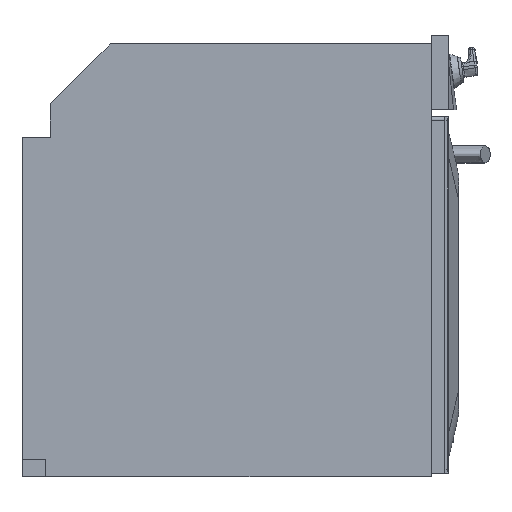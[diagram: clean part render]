
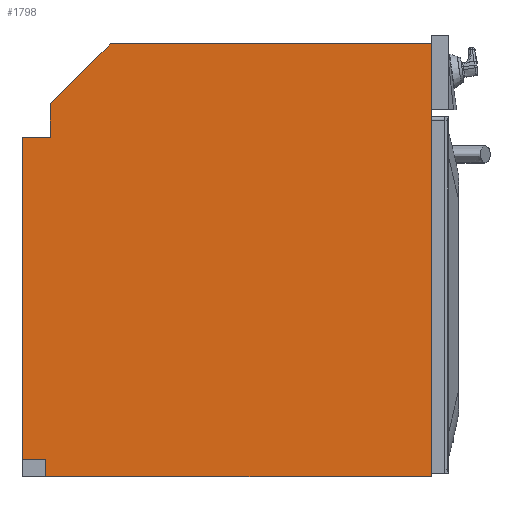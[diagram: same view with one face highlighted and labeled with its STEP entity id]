
A CAD part, front view. The second image highlights one B-rep face of the part: STEP entity #1798.
In plain terms, the highlighted planar face has unit normal (0, -1, 0).
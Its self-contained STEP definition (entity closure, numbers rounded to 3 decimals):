
#1798=ADVANCED_FACE('',(#2569),#2132,.F.);
#2132=PLANE('',#10076);
#2569=FACE_OUTER_BOUND('',#3154,.T.);
#3154=EDGE_LOOP('',(#5073,#5074,#5075,#5076,#5077,#5078,#5079,#5080,#5081));
#5073=ORIENTED_EDGE('',*,*,#7647,.F.);
#5074=ORIENTED_EDGE('',*,*,#7641,.F.);
#5075=ORIENTED_EDGE('',*,*,#7670,.F.);
#5076=ORIENTED_EDGE('',*,*,#7665,.F.);
#5077=ORIENTED_EDGE('',*,*,#7662,.F.);
#5078=ORIENTED_EDGE('',*,*,#7659,.F.);
#5079=ORIENTED_EDGE('',*,*,#7656,.F.);
#5080=ORIENTED_EDGE('',*,*,#7653,.F.);
#5081=ORIENTED_EDGE('',*,*,#7650,.F.);
#6503=VERTEX_POINT('',#17950);
#6506=VERTEX_POINT('',#17955);
#6512=VERTEX_POINT('',#17969);
#6514=VERTEX_POINT('',#17975);
#6516=VERTEX_POINT('',#17981);
#6518=VERTEX_POINT('',#17987);
#6520=VERTEX_POINT('',#17993);
#6522=VERTEX_POINT('',#17999);
#6523=VERTEX_POINT('',#18004);
#7641=EDGE_CURVE('',#6506,#6503,#8496,.T.);
#7647=EDGE_CURVE('',#6503,#6512,#8502,.T.);
#7650=EDGE_CURVE('',#6512,#6514,#8505,.T.);
#7653=EDGE_CURVE('',#6514,#6516,#8508,.T.);
#7656=EDGE_CURVE('',#6516,#6518,#8511,.T.);
#7659=EDGE_CURVE('',#6518,#6520,#8514,.T.);
#7662=EDGE_CURVE('',#6520,#6522,#8517,.T.);
#7665=EDGE_CURVE('',#6522,#6523,#8520,.T.);
#7670=EDGE_CURVE('',#6523,#6506,#8525,.T.);
#8496=LINE('',#17956,#9114);
#8502=LINE('',#17968,#9120);
#8505=LINE('',#17974,#9123);
#8508=LINE('',#17980,#9126);
#8511=LINE('',#17986,#9129);
#8514=LINE('',#17992,#9132);
#8517=LINE('',#17998,#9135);
#8520=LINE('',#18003,#9138);
#8525=LINE('',#18011,#9143);
#9114=VECTOR('',#12127,1.);
#9120=VECTOR('',#12135,1.);
#9123=VECTOR('',#12140,1.);
#9126=VECTOR('',#12145,1.);
#9129=VECTOR('',#12150,1.);
#9132=VECTOR('',#12155,1.);
#9135=VECTOR('',#12160,1.);
#9138=VECTOR('',#12165,1.);
#9143=VECTOR('',#12172,1.);
#10076=AXIS2_PLACEMENT_3D('',#18016,#12179,#12180);
#12127=DIRECTION('',(-1.,0.,0.));
#12135=DIRECTION('',(0.,0.,1.));
#12140=DIRECTION('',(1.,0.,0.));
#12145=DIRECTION('',(0.,0.,1.));
#12150=DIRECTION('',(0.707,0.,0.707));
#12155=DIRECTION('',(1.,0.,0.));
#12160=DIRECTION('',(0.,0.,-1.));
#12165=DIRECTION('',(-1.,0.,0.));
#12172=DIRECTION('',(0.,0.,1.));
#12179=DIRECTION('',(0.,1.,0.));
#12180=DIRECTION('',(0.,0.,1.));
#17950=CARTESIAN_POINT('',(0.,273.,23.));
#17955=CARTESIAN_POINT('',(32.,273.,23.));
#17956=CARTESIAN_POINT('',(32.,273.,23.));
#17968=CARTESIAN_POINT('',(0.,273.,23.));
#17969=CARTESIAN_POINT('',(0.,273.,455.));
#17974=CARTESIAN_POINT('',(0.,273.,455.));
#17975=CARTESIAN_POINT('',(38.,273.,455.));
#17980=CARTESIAN_POINT('',(38.,273.,455.));
#17981=CARTESIAN_POINT('',(38.,273.,500.));
#17986=CARTESIAN_POINT('',(38.,273.,500.));
#17987=CARTESIAN_POINT('',(118.,273.,580.));
#17992=CARTESIAN_POINT('',(118.,273.,580.));
#17993=CARTESIAN_POINT('',(548.,273.,580.));
#17998=CARTESIAN_POINT('',(548.,273.,580.));
#17999=CARTESIAN_POINT('',(548.,273.,0.));
#18003=CARTESIAN_POINT('',(548.,273.,0.));
#18004=CARTESIAN_POINT('',(32.,273.,0.));
#18011=CARTESIAN_POINT('',(32.,273.,0.));
#18016=CARTESIAN_POINT('',(0.,273.,0.));
